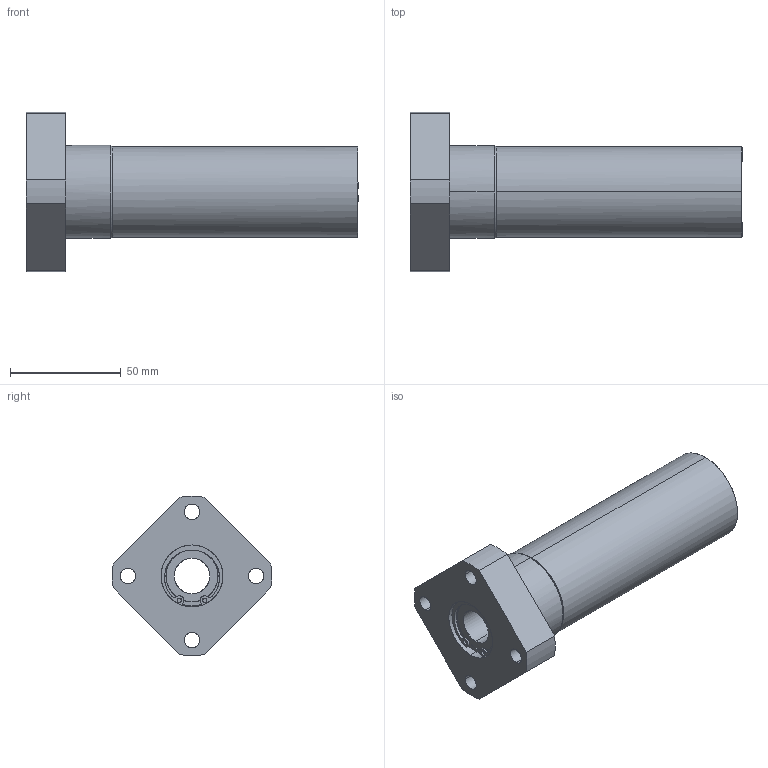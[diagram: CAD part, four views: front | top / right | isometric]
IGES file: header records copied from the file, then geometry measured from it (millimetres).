
Global section: file name: No Iges File Name specified; native system: AutoDesk Inventor R11.0; preprocessor: AutoDesk Inventor Iges Exporter R11.0; author: No Author specified; organization: No Organization specified; date: 20170922.134021; units: millimetre
Bounding box: 150 x 71.91 x 71.95 mm (x, y, z)
Surface area: 39412.4 mm2 (no closed solid volume)
Topology: 0 solids, 0 shells, 130 faces, 936 edges, 936 vertices
Faces by surface type: bspline 130
